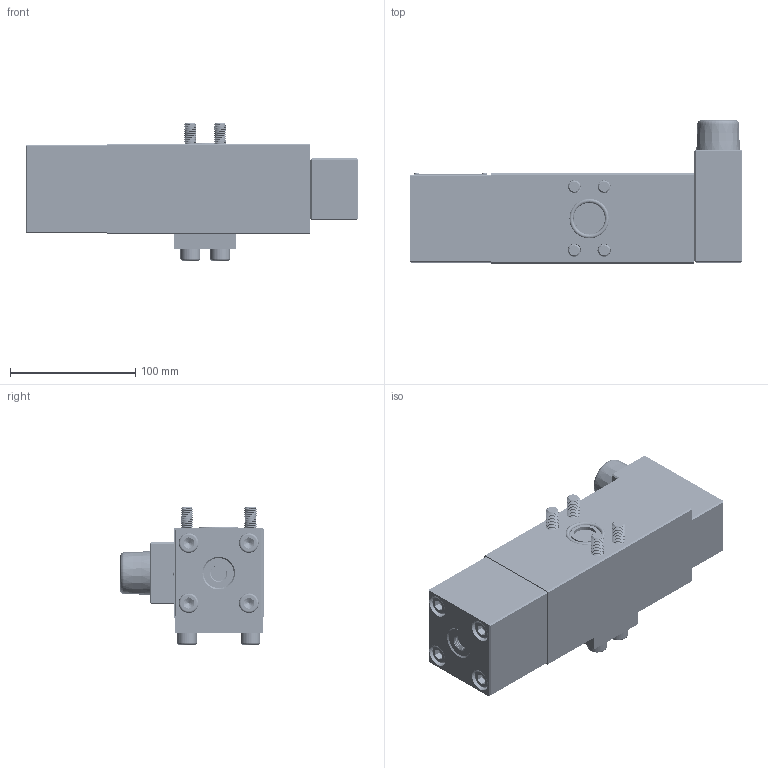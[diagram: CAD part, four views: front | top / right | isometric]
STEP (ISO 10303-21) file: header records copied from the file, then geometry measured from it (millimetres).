
FILE_DESCRIPTION(/* description */ (''),/* implementation_level */ '2;1');
FILE_NAME(/* name */ 'FD12(16)FB平衡阀.prt.stp',/* time_stamp */ '2022-03-30T20:01:45+08:00',/* author */ (''),/* organization */ (''),/* preprocessor_version */ 'ST-DEVELOPER v16.7',/* originating_system */ 'SIEMENS PLM Software NX 12.0',/* authorisation */ '');
FILE_SCHEMA (('AUTOMOTIVE_DESIGN { 1 0 10303 214 3 1 1 1 }'));
Products named in the file (1): FD12(16)FB平衡阀
Bounding box: 265 x 114.6 x 109.64 mm (x, y, z)
Volume: 1320036.9 mm3; surface area: 203738.8 mm2
Topology: 22 solids, 25 shells, 1139 faces, 2965 edges, 1927 vertices
Faces by surface type: cylinder 617, plane 322, extrusion 81, bspline 64, cone 39, torus 16
Full cylindrical faces by diameter (mm): 1.8 x2, 1.9 x2, 2 x2, 2.5 x1, 6 x125, 8.5 x70, 9.78 x4, 10 x303, 10.5 x4, 11 x8, 12 x1, 15.73 x8, 18 x7, 23.06 x2, 24 x1, 30 x1, 31.5 x2, 32 x2, 34 x1, 42 x1, 46 x1, 54 x1
Entity records: 139326 total; most frequent: CARTESIAN_POINT 125254, ORIENTED_EDGE 2616, DIRECTION 2264, EDGE_CURVE 1308, VERTEX_POINT 914, EDGE_LOOP 881, AXIS2_PLACEMENT_3D 805, ADVANCED_FACE 655
